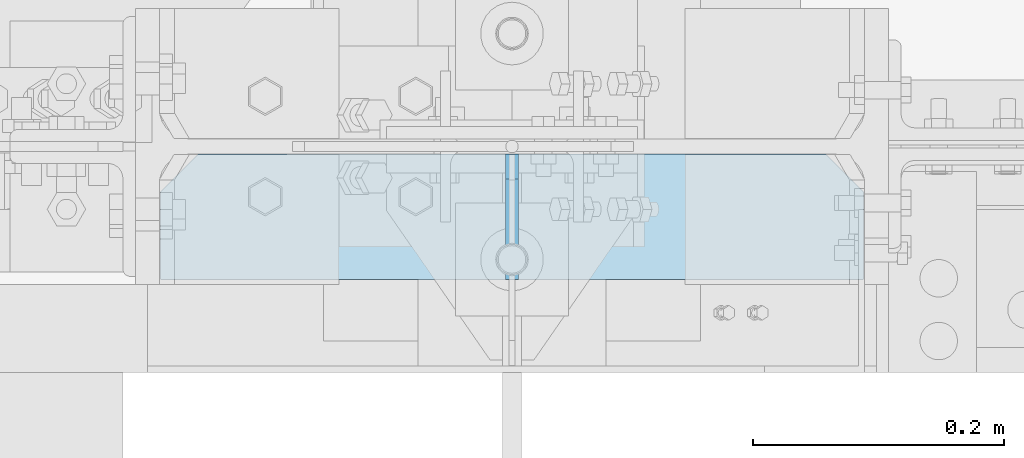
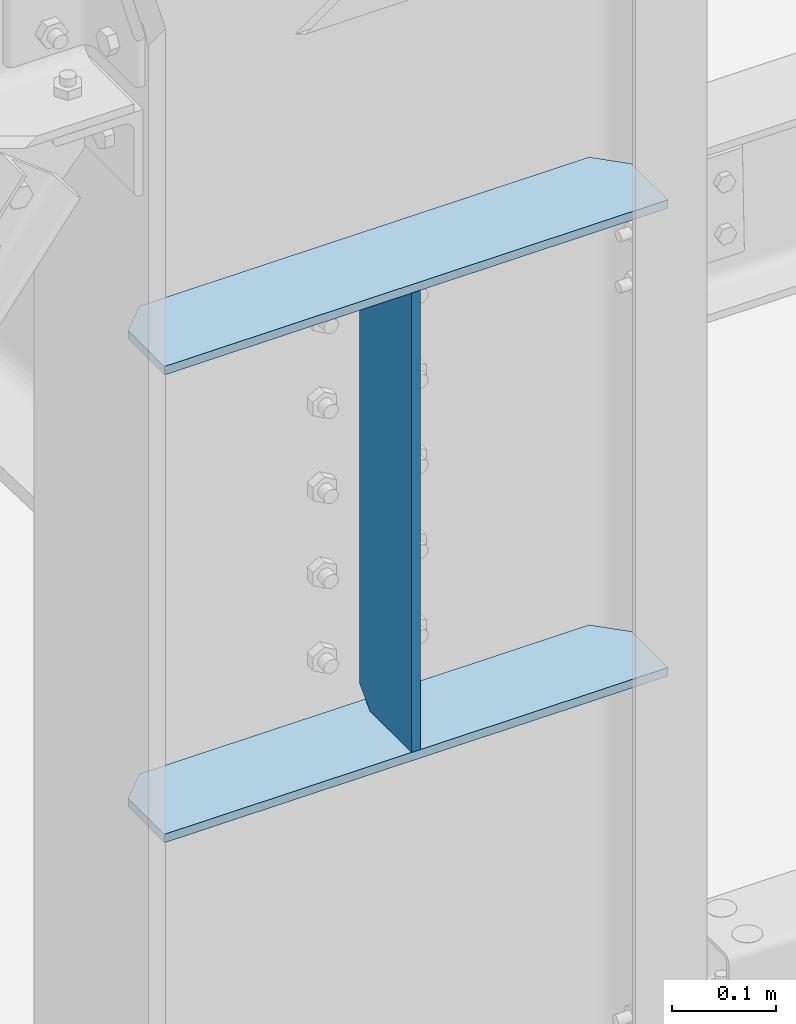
# One storey, part 132 of 362: 3 plates, 1 element without a shape of its own.
"""IFC2X3 building model written with IfcOpenShell, lengths in millimetres."""

from ifc_helpers import new_model, si_unit, frame, origin_with_axes, place, context, subcontext, project, spatial, polyline, outline, extrude, material, type_object, element, aggregate, save


model = new_model("IFC2X3")

# Units and contexts
model_context = context("Model", 3, precision=1e-05, world=origin_with_axes())
body_context = subcontext(model_context, "Body", "Model", "MODEL_VIEW")
ifc_project = project(units=[si_unit("LENGTHUNIT", "METRE", prefix="MILLI"), si_unit("AREAUNIT", "SQUARE_METRE"), si_unit("VOLUMEUNIT", "CUBIC_METRE"), si_unit("MASSUNIT", "GRAM", prefix="KILO"), si_unit("TIMEUNIT", "SECOND"), si_unit("PLANEANGLEUNIT", "RADIAN"), si_unit("SOLIDANGLEUNIT", "STERADIAN"), si_unit("THERMODYNAMICTEMPERATUREUNIT", "DEGREE_CELSIUS"), si_unit("LUMINOUSINTENSITYUNIT", "LUMEN")], contexts=[model_context])

# Site, building, storey
site_placement = place(None, origin_with_axes())
site = spatial("IfcSite", under=ifc_project, at=site_placement, Name="Undefined", CompositionType="ELEMENT")
building_placement = place(site_placement, origin_with_axes())
building = spatial("IfcBuilding", under=site, at=building_placement, Name="Undefined", CompositionType="ELEMENT")
storey_placement = place(building_placement, origin_with_axes())
storey = spatial("IfcBuildingStorey", under=building, at=storey_placement, Name="Undefined", CompositionType="ELEMENT", Elevation=0.0)

# Assembly, plates
assembly_placement = place(storey_placement, origin_with_axes())
assembly = element("IfcElementAssembly", 1, at=assembly_placement, inside=storey, Name="POTEAU", AssemblyPlace="NOTDEFINED", PredefinedType="NOTDEFINED")
ifc_material = material(Name="Undefined/S235-E24")
plate_type = type_object("IfcPlateType", Name="TOLE10*100", PredefinedType="NOTDEFINED")
plate_1_placement = place(assembly_placement, frame((28879.9998414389, -106.0, 8044.34004841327), z_axis=(-1.0, 0.0, 0.0), x_axis=(0.0, 1.0, 0.0)))
plate_1 = element("IfcPlate", 2, at=plate_1_placement, type_object=plate_type, material=ifc_material, Name="RAIDISSEUR", ObjectType="TOLE10*100", context=body_context, shape_type="SweptSolid", body=[
    extrude(outline(polyline([(0.0, 0.0), (80.00000000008, 8.00355337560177e-11), (100.0, 20.0), (100.0, 520.000000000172), (80.0, 540.000000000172), (-5.6843418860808e-14, 540.000000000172), (0.0, 0.0)])), frame((0.0, 0.0, -5.0), z_axis=(0.0, 0.0, 1.0), x_axis=(1.0, 0.0, 0.0)), (0.0, 0.0, 1.0), 10.0),
])
plate_2_placement = place(assembly_placement, frame((29159.9996632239, -106.0, 7499.33995685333), z_axis=(0.0, 0.0, 1.0), x_axis=(0.0, 1.0, 0.0)))
plate_2 = element("IfcPlate", 3, at=plate_2_placement, type_object=plate_type, material=ifc_material, Name="RAIDISSEUR", ObjectType="TOLE10*100", context=body_context, shape_type="SweptSolid", body=[
    extrude(outline(polyline([(0.0, 0.0), (70.0, 0.0), (100.0, 30.0), (100.0, 530.000000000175), (70.0, 560.000000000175), (0.0, 560.000000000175), (0.0, 0.0)])), frame((0.0, 0.0, -5.0), z_axis=(0.0, 0.0, 1.0), x_axis=(1.0, 0.0, 0.0)), (0.0, 0.0, 1.0), 10.0),
])
plate_3_placement = place(assembly_placement, frame((29159.9998430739, -106.0, 8049.33995685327), z_axis=(0.0, 0.0, 1.0), x_axis=(0.0, 1.0, 0.0)))
plate_3 = element("IfcPlate", 4, at=plate_3_placement, type_object=plate_type, material=ifc_material, Name="RAIDISSEUR", ObjectType="TOLE10*100", context=body_context, shape_type="SweptSolid", body=[
    extrude(outline(polyline([(0.0, 0.0), (70.0, 0.0), (100.0, 30.0), (100.0, 530.000000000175), (70.0, 560.000000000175), (0.0, 560.000000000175), (0.0, 0.0)])), frame((0.0, 0.0, -5.0), z_axis=(0.0, 0.0, 1.0), x_axis=(1.0, 0.0, 0.0)), (0.0, 0.0, 1.0), 10.0),
])
aggregate(assembly, [plate_1, plate_2, plate_3])

save(model, "model.ifc")
